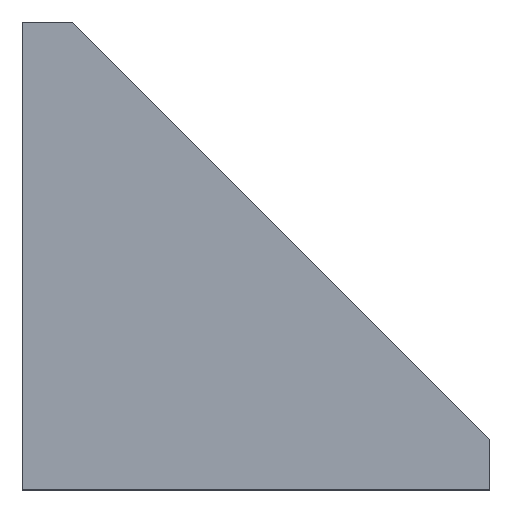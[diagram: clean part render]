
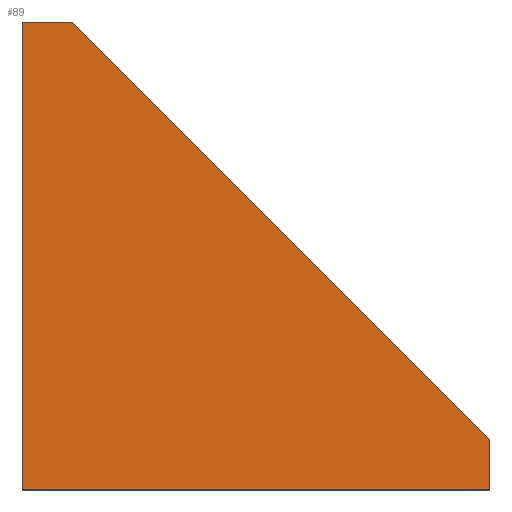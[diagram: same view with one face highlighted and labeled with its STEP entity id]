
A CAD part, top view. The second image highlights one B-rep face of the part: STEP entity #89.
In plain terms, the highlighted planar face has unit normal (0, 0, 1).
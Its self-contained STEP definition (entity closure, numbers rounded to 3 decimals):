
#4 = VECTOR ( 'NONE', #646, 1000. ) ;
#5 = LINE ( 'NONE', #718, #625 ) ;
#35 = ORIENTED_EDGE ( 'NONE', *, *, #51, .T. ) ;
#44 = EDGE_CURVE ( 'NONE', #322, #506, #389, .T. ) ;
#45 = LINE ( 'NONE', #627, #380 ) ;
#51 = EDGE_CURVE ( 'NONE', #138, #644, #684, .T. ) ;
#89 = ADVANCED_FACE ( 'NONE', ( #306 ), #667, .F. ) ;
#100 = VERTEX_POINT ( 'NONE', #757 ) ;
#138 = VERTEX_POINT ( 'NONE', #247 ) ;
#158 = DIRECTION ( 'NONE',  ( 0., 0., -1. ) ) ;
#167 = AXIS2_PLACEMENT_3D ( 'NONE', #230, #158, #298 ) ;
#213 = EDGE_CURVE ( 'NONE', #644, #100, #5, .T. ) ;
#230 = CARTESIAN_POINT ( 'NONE',  ( 0., 0., 20. ) ) ;
#239 = CARTESIAN_POINT ( 'NONE',  ( 9., 84., 20. ) ) ;
#247 = CARTESIAN_POINT ( 'NONE',  ( 84., 9., 20. ) ) ;
#256 = ORIENTED_EDGE ( 'NONE', *, *, #44, .T. ) ;
#298 = DIRECTION ( 'NONE',  ( -1., 0., 0. ) ) ;
#306 = FACE_OUTER_BOUND ( 'NONE', #494, .T. ) ;
#322 = VERTEX_POINT ( 'NONE', #460 ) ;
#340 = CARTESIAN_POINT ( 'NONE',  ( 84., 0., 20. ) ) ;
#379 = DIRECTION ( 'NONE',  ( 1., 0., 0. ) ) ;
#380 = VECTOR ( 'NONE', #480, 1000. ) ;
#389 = LINE ( 'NONE', #532, #891 ) ;
#423 = LINE ( 'NONE', #722, #4 ) ;
#460 = CARTESIAN_POINT ( 'NONE',  ( 0., 0., 20. ) ) ;
#480 = DIRECTION ( 'NONE',  ( 0., -1., 0. ) ) ;
#494 = EDGE_LOOP ( 'NONE', ( #256, #544, #35, #578, #651 ) ) ;
#506 = VERTEX_POINT ( 'NONE', #340 ) ;
#532 = CARTESIAN_POINT ( 'NONE',  ( 84., 0., 20. ) ) ;
#544 = ORIENTED_EDGE ( 'NONE', *, *, #720, .T. ) ;
#578 = ORIENTED_EDGE ( 'NONE', *, *, #213, .T. ) ;
#625 = VECTOR ( 'NONE', #736, 1000. ) ;
#627 = CARTESIAN_POINT ( 'NONE',  ( 0., 0., 20. ) ) ;
#642 = VECTOR ( 'NONE', #895, 1000. ) ;
#644 = VERTEX_POINT ( 'NONE', #811 ) ;
#646 = DIRECTION ( 'NONE',  ( 0., 1., 0. ) ) ;
#651 = ORIENTED_EDGE ( 'NONE', *, *, #915, .T. ) ;
#667 = PLANE ( 'NONE',  #167 ) ;
#684 = LINE ( 'NONE', #239, #642 ) ;
#718 = CARTESIAN_POINT ( 'NONE',  ( 0., 84., 20. ) ) ;
#720 = EDGE_CURVE ( 'NONE', #506, #138, #423, .T. ) ;
#722 = CARTESIAN_POINT ( 'NONE',  ( 84., 9., 20. ) ) ;
#736 = DIRECTION ( 'NONE',  ( -1., 0., 0. ) ) ;
#757 = CARTESIAN_POINT ( 'NONE',  ( 0., 84., 20. ) ) ;
#811 = CARTESIAN_POINT ( 'NONE',  ( 9., 84., 20. ) ) ;
#891 = VECTOR ( 'NONE', #379, 1000. ) ;
#895 = DIRECTION ( 'NONE',  ( -0.707, 0.707, 0. ) ) ;
#915 = EDGE_CURVE ( 'NONE', #100, #322, #45, .T. ) ;
